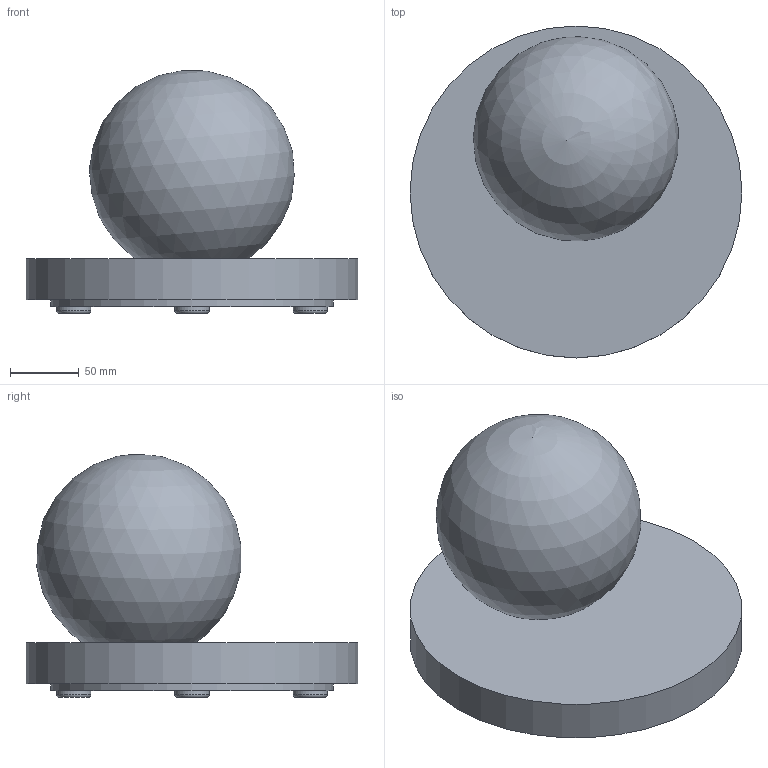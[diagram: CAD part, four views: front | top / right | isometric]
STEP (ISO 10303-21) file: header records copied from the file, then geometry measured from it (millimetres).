
FILE_DESCRIPTION(/* description */ (''),/* implementation_level */ '2;1');
FILE_NAME(/* name */ 'X:\PUBBLICA\X ALBERTO ZANARDI\FILE 3D X SITO\PIGRECO\1930 - PIGRECO.stp',/* time_stamp */ '2020-02-07T16:08:44+01:00',/* author */ ('AC'),/* organization */ (''),/* preprocessor_version */ 'ST-DEVELOPER v18',/* originating_system */ 'Autodesk Inventor 2020',/* authorisation */ '');
FILE_SCHEMA (('AUTOMOTIVE_DESIGN { 1 0 10303 214 3 1 1 }'));
Length unit declared in the file: millimetre
Products named in the file (1): Parte4
Bounding box: 242.25 x 242.25 x 177.35 mm (x, y, z)
Volume: 3166119.5 mm3; surface area: 198000.6 mm2
Topology: 1 solids, 2 shells, 21 faces, 44 edges, 31 vertices
Faces by surface type: plane 8, cylinder 7, torus 4, sphere 2
Full cylindrical faces by diameter (mm): 25 x4, 82.5 x1, 206.25 x1, 242.25 x1
Entity records: 679 total; most frequent: DIRECTION 121, CARTESIAN_POINT 95, ORIENTED_EDGE 84, AXIS2_PLACEMENT_3D 57, EDGE_CURVE 42, CIRCLE 35, VERTEX_POINT 31, EDGE_LOOP 27
